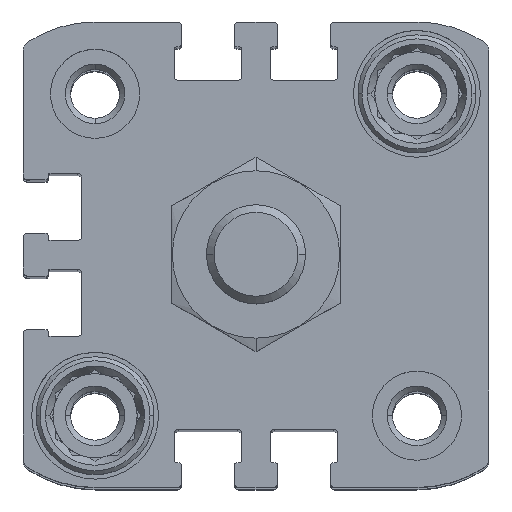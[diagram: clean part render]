
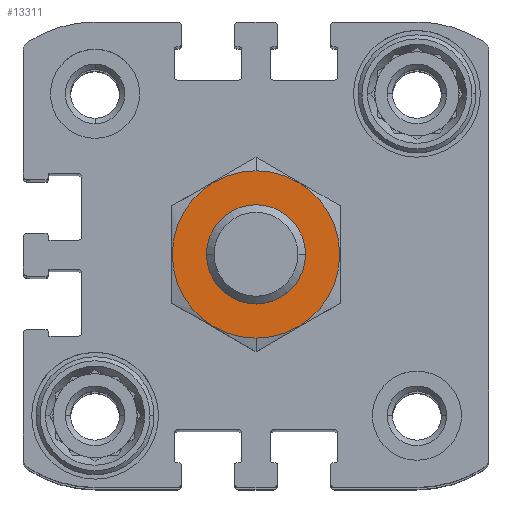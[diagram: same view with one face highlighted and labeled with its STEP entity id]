
A CAD part, top view. The second image highlights one B-rep face of the part: STEP entity #13311.
In plain terms, the highlighted planar face has unit normal (0, 0, 1).
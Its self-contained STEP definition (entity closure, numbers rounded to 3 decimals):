
#290 = EDGE_CURVE ( 'NONE', #3103, #15338, #14160, .T. ) ;
#824 = CARTESIAN_POINT ( 'NONE',  ( 0., 0., 15.75 ) ) ;
#960 = CIRCLE ( 'NONE', #10770, 5. ) ;
#961 = VERTEX_POINT ( 'NONE', #16244 ) ;
#1816 = EDGE_CURVE ( 'NONE', #15338, #3103, #17240, .T. ) ;
#2076 = CARTESIAN_POINT ( 'NONE',  ( 0., 0., 15.75 ) ) ;
#2266 = EDGE_CURVE ( 'NONE', #2437, #961, #960, .T. ) ;
#2301 = AXIS2_PLACEMENT_3D ( 'NONE', #11743, #3759, #2433 ) ;
#2433 = DIRECTION ( 'NONE',  ( 0., 1., 0. ) ) ;
#2437 = VERTEX_POINT ( 'NONE', #10482 ) ;
#3103 = VERTEX_POINT ( 'NONE', #3324 ) ;
#3324 = CARTESIAN_POINT ( 'NONE',  ( 0., -8.45, 15.75 ) ) ;
#3596 = CARTESIAN_POINT ( 'NONE',  ( 0., 8.45, 15.75 ) ) ;
#3759 = DIRECTION ( 'NONE',  ( 0., 0., -1. ) ) ;
#4770 = FACE_BOUND ( 'NONE', #7495, .T. ) ;
#5033 = PLANE ( 'NONE',  #5781 ) ;
#5781 = AXIS2_PLACEMENT_3D ( 'NONE', #6079, #14175, #7578 ) ;
#6079 = CARTESIAN_POINT ( 'NONE',  ( 0., 0., 15.75 ) ) ;
#6578 = AXIS2_PLACEMENT_3D ( 'NONE', #8869, #14156, #16706 ) ;
#7495 = EDGE_LOOP ( 'NONE', ( #8629, #8598 ) ) ;
#7578 = DIRECTION ( 'NONE',  ( 0., 1., 0. ) ) ;
#8234 = AXIS2_PLACEMENT_3D ( 'NONE', #2076, #13054, #14282 ) ;
#8598 = ORIENTED_EDGE ( 'NONE', *, *, #10827, .T. ) ;
#8629 = ORIENTED_EDGE ( 'NONE', *, *, #2266, .T. ) ;
#8869 = CARTESIAN_POINT ( 'NONE',  ( 0., 0., 15.75 ) ) ;
#9871 = CIRCLE ( 'NONE', #2301, 5. ) ;
#10482 = CARTESIAN_POINT ( 'NONE',  ( 0., -5., 15.75 ) ) ;
#10770 = AXIS2_PLACEMENT_3D ( 'NONE', #824, #15400, #12951 ) ;
#10827 = EDGE_CURVE ( 'NONE', #961, #2437, #9871, .T. ) ;
#11743 = CARTESIAN_POINT ( 'NONE',  ( 0., 0., 15.75 ) ) ;
#12951 = DIRECTION ( 'NONE',  ( 0., 1., 0. ) ) ;
#13054 = DIRECTION ( 'NONE',  ( 0., 0., -1. ) ) ;
#13311 = ADVANCED_FACE ( 'NONE', ( #14259, #4770 ), #5033, .F. ) ;
#13665 = EDGE_LOOP ( 'NONE', ( #14414, #16045 ) ) ;
#14156 = DIRECTION ( 'NONE',  ( 0., 0., -1. ) ) ;
#14160 = CIRCLE ( 'NONE', #6578, 8.45 ) ;
#14175 = DIRECTION ( 'NONE',  ( 0., 0., -1. ) ) ;
#14259 = FACE_OUTER_BOUND ( 'NONE', #13665, .T. ) ;
#14282 = DIRECTION ( 'NONE',  ( 0., 1., 0. ) ) ;
#14414 = ORIENTED_EDGE ( 'NONE', *, *, #1816, .F. ) ;
#15338 = VERTEX_POINT ( 'NONE', #3596 ) ;
#15400 = DIRECTION ( 'NONE',  ( 0., 0., -1. ) ) ;
#16045 = ORIENTED_EDGE ( 'NONE', *, *, #290, .F. ) ;
#16244 = CARTESIAN_POINT ( 'NONE',  ( 0., 5., 15.75 ) ) ;
#16706 = DIRECTION ( 'NONE',  ( 0., 1., 0. ) ) ;
#17240 = CIRCLE ( 'NONE', #8234, 8.45 ) ;
